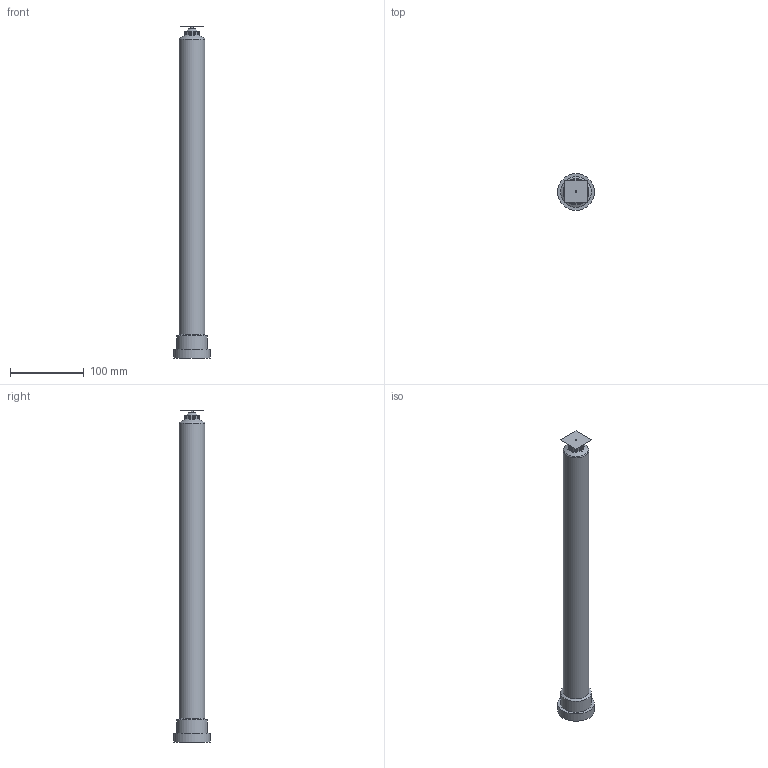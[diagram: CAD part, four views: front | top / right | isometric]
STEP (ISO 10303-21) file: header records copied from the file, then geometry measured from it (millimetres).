
FILE_DESCRIPTION (( 'STEP AP214' ), '1' );
FILE_NAME ('12E-06-450_VTW.STEP', '2020-11-17T06:47:53', ( '' ), ( '' ), 'SwSTEP 2.0', 'SolidWorks 2018', '' );
FILE_SCHEMA (( 'AUTOMOTIVE_DESIGN' ));
Length unit declared in the file: millimetre
Products named in the file (3): 12E-06-450_VTW; cutout_12E-06-060-VTW; nozzle_12E-06-450-VTW
Assembly tree (2 placements, depth 2):
  12E-06-450_VTW
    nozzle_12E-06-450-VTW
    cutout_12E-06-060-VTW
Bounding box: 50 x 50 x 450.64 mm (x, y, z)
Volume: 442049.4 mm3; surface area: 99926.9 mm2
Topology: 1 solids, 12 shells, 202 faces, 522 edges, 338 vertices
Faces by surface type: plane 92, cylinder 69, torus 28, cone 12, sphere 1
Full cylindrical faces by diameter (mm): 2 x2, 4 x1, 6 x2, 19.5 x1, 20 x3, 21 x1, 24 x1, 25 x1, 28 x1, 31 x1, 35 x1, 42 x1, 50 x1
Entity records: 6507 total; most frequent: CARTESIAN_POINT 1604, DIRECTION 1032, ORIENTED_EDGE 938, EDGE_CURVE 471, AXIS2_PLACEMENT_3D 396, VERTEX_POINT 326, EDGE_LOOP 252, LINE 240
